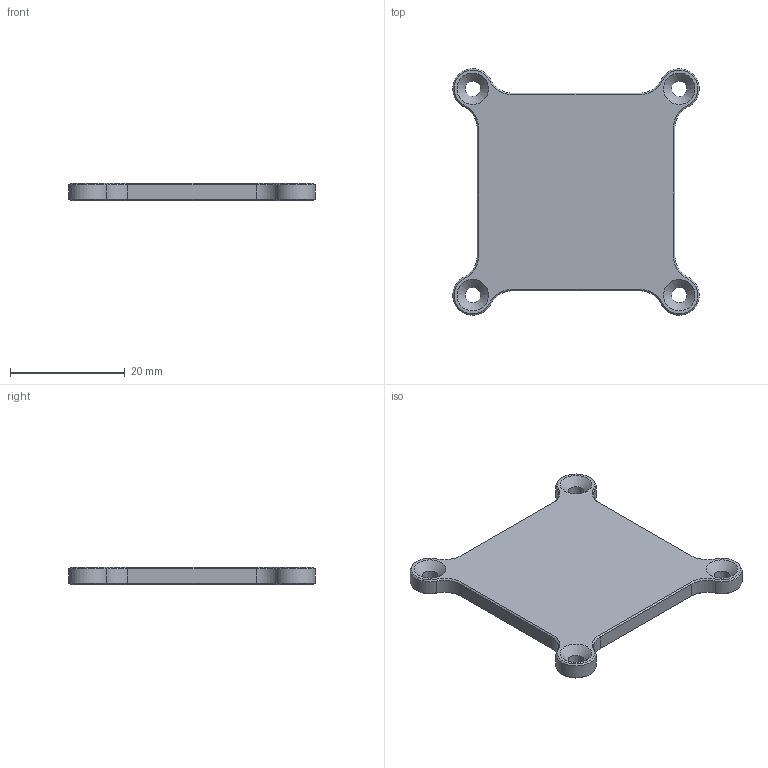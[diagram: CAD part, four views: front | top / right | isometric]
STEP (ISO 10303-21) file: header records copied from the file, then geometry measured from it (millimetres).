
FILE_DESCRIPTION(('STEP AP214'),'1');
FILE_NAME('MHS.OSM.1.stp','2024-12-13T12:31:32',(' '),(' '),'Spatial InterOp 3D',' ',' ');
FILE_SCHEMA(('AUTOMOTIVE_DESIGN { 1 0 10303 214 1 1 1 1 }'));
Length unit declared in the file: metre
Products named in the file (1): Volumenkörper
Bounding box: 42.98 x 42.98 x 3 mm (x, y, z)
Volume: 3889.6 mm3; surface area: 3199.7 mm2
Topology: 1 solids, 1 shells, 58 faces, 132 edges, 76 vertices
Faces by surface type: cone 28, cylinder 16, plane 14
Full cylindrical faces by diameter (mm): 2.7 x4
Entity records: 2064 total; most frequent: DIRECTION 302, CARTESIAN_POINT 259, ORIENTED_EDGE 248, EDGE_CURVE 124, AXIS2_PLACEMENT_3D 119, VERTEX_POINT 76, EDGE_LOOP 74, LINE 64
